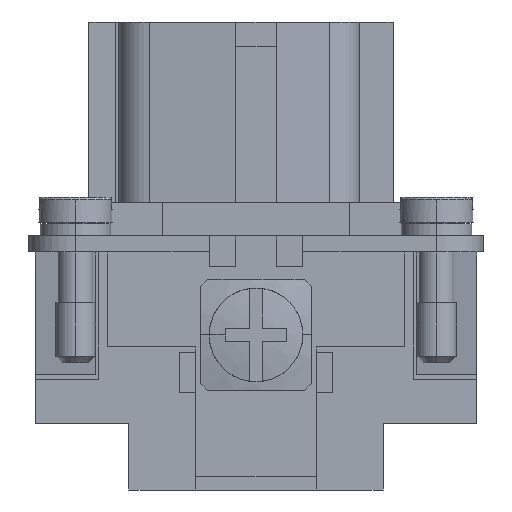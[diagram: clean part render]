
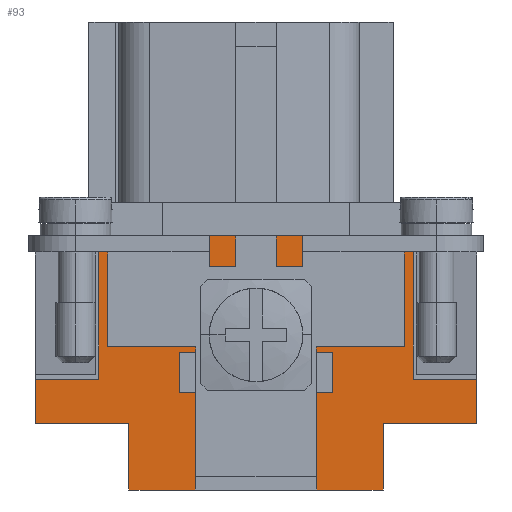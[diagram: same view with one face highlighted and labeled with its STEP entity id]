
A CAD part, left-side view. The second image highlights one B-rep face of the part: STEP entity #93.
In plain terms, the highlighted planar face has unit normal (-1, 0, 0).
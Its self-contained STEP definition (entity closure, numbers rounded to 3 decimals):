
#93 = ADVANCED_FACE ( 'NONE', ( #14484 ), #15782, .T. ) ;
#704 = VERTEX_POINT ( 'NONE', #23201 ) ;
#2454 = LINE ( 'NONE', #6421, #2481 ) ;
#2457 = LINE ( 'NONE', #6455, #2458 ) ;
#2458 = VECTOR ( 'NONE', #6454, 1000. ) ;
#2460 = LINE ( 'NONE', #6418, #2489 ) ;
#2463 = LINE ( 'NONE', #6448, #2464 ) ;
#2464 = VECTOR ( 'NONE', #6447, 1000. ) ;
#2465 = LINE ( 'NONE', #6446, #2466 ) ;
#2466 = VECTOR ( 'NONE', #6445, 1000. ) ;
#2467 = LINE ( 'NONE', #6441, #2468 ) ;
#2468 = VECTOR ( 'NONE', #6440, 1000. ) ;
#2469 = LINE ( 'NONE', #6437, #2470 ) ;
#2470 = VECTOR ( 'NONE', #6436, 1000. ) ;
#2473 = LINE ( 'NONE', #6430, #2474 ) ;
#2474 = VECTOR ( 'NONE', #6429, 1000. ) ;
#2481 = VECTOR ( 'NONE', #6416, 1000. ) ;
#2485 = LINE ( 'NONE', #6411, #2486 ) ;
#2486 = VECTOR ( 'NONE', #6410, 1000. ) ;
#2489 = VECTOR ( 'NONE', #6403, 1000. ) ;
#2490 = LINE ( 'NONE', #6378, #2505 ) ;
#2491 = LINE ( 'NONE', #6398, #2492 ) ;
#2492 = VECTOR ( 'NONE', #6395, 1000. ) ;
#2498 = LINE ( 'NONE', #6361, #2515 ) ;
#2501 = LINE ( 'NONE', #6371, #2502 ) ;
#2502 = VECTOR ( 'NONE', #6367, 1000. ) ;
#2505 = VECTOR ( 'NONE', #6360, 1000. ) ;
#2509 = LINE ( 'NONE', #6351, #2510 ) ;
#2510 = VECTOR ( 'NONE', #6350, 1000. ) ;
#2511 = LINE ( 'NONE', #6346, #2512 ) ;
#2512 = VECTOR ( 'NONE', #6345, 1000. ) ;
#2515 = VECTOR ( 'NONE', #6340, 1000. ) ;
#2521 = LINE ( 'NONE', #6390, #2522 ) ;
#2522 = VECTOR ( 'NONE', #6391, 1000. ) ;
#3594 = CARTESIAN_POINT ( 'NONE',  ( -14.85, -16.5, 5. ) ) ;
#3604 = CARTESIAN_POINT ( 'NONE',  ( -14.85, 11.75, 8.3 ) ) ;
#3866 = CARTESIAN_POINT ( 'NONE',  ( -14.85, -11.75, 8.3 ) ) ;
#3925 = CARTESIAN_POINT ( 'NONE',  ( -14.85, -4.55, 0. ) ) ;
#3997 = CARTESIAN_POINT ( 'NONE',  ( -14.85, 4.55, 0. ) ) ;
#4212 = CARTESIAN_POINT ( 'NONE',  ( -14.85, 16.5, 5. ) ) ;
#4307 = CARTESIAN_POINT ( 'NONE',  ( -14.85, -11.75, 19. ) ) ;
#4565 = CARTESIAN_POINT ( 'NONE',  ( -14.85, -16.5, 8.3 ) ) ;
#4578 = CARTESIAN_POINT ( 'NONE',  ( -14.85, 9.5, 0. ) ) ;
#4590 = CARTESIAN_POINT ( 'NONE',  ( -14.85, -4.55, 3.5 ) ) ;
#4791 = CARTESIAN_POINT ( 'NONE',  ( -14.85, 9.5, 5. ) ) ;
#5254 = CARTESIAN_POINT ( 'NONE',  ( -14.85, 16.5, 8.3 ) ) ;
#6340 = DIRECTION ( 'NONE',  ( 0., 1., 0. ) ) ;
#6345 = DIRECTION ( 'NONE',  ( 0., 0., 1. ) ) ;
#6346 = CARTESIAN_POINT ( 'NONE',  ( -14.85, -11.75, 0. ) ) ;
#6350 = DIRECTION ( 'NONE',  ( 0., 0., 1. ) ) ;
#6351 = CARTESIAN_POINT ( 'NONE',  ( -14.85, -16.5, 0. ) ) ;
#6360 = DIRECTION ( 'NONE',  ( 0., -1., 0. ) ) ;
#6361 = CARTESIAN_POINT ( 'NONE',  ( -14.85, -16.5, 19. ) ) ;
#6367 = DIRECTION ( 'NONE',  ( 0., 1., 0. ) ) ;
#6371 = CARTESIAN_POINT ( 'NONE',  ( -14.85, -16.5, 8.3 ) ) ;
#6378 = CARTESIAN_POINT ( 'NONE',  ( -14.85, -16.5, 5. ) ) ;
#6390 = CARTESIAN_POINT ( 'NONE',  ( -14.85, 11.75, 0. ) ) ;
#6391 = DIRECTION ( 'NONE',  ( 0., 0., -1. ) ) ;
#6395 = DIRECTION ( 'NONE',  ( 0., 0., 1. ) ) ;
#6398 = CARTESIAN_POINT ( 'NONE',  ( -14.85, -9.5, 0. ) ) ;
#6403 = DIRECTION ( 'NONE',  ( 0., 0., -1. ) ) ;
#6410 = DIRECTION ( 'NONE',  ( 0., -1., 0. ) ) ;
#6411 = CARTESIAN_POINT ( 'NONE',  ( -14.85, -16.5, 3.5 ) ) ;
#6416 = DIRECTION ( 'NONE',  ( 0., 0., 1. ) ) ;
#6418 = CARTESIAN_POINT ( 'NONE',  ( -14.85, -4.55, 0. ) ) ;
#6421 = CARTESIAN_POINT ( 'NONE',  ( -14.85, 4.55, 0. ) ) ;
#6429 = DIRECTION ( 'NONE',  ( 0., 0., -1. ) ) ;
#6430 = CARTESIAN_POINT ( 'NONE',  ( -14.85, 9.5, 0. ) ) ;
#6436 = DIRECTION ( 'NONE',  ( 0., -1., 0. ) ) ;
#6437 = CARTESIAN_POINT ( 'NONE',  ( -14.85, -16.5, 5. ) ) ;
#6440 = DIRECTION ( 'NONE',  ( 0., -1., 0. ) ) ;
#6441 = CARTESIAN_POINT ( 'NONE',  ( -14.85, -16.5, 0. ) ) ;
#6445 = DIRECTION ( 'NONE',  ( 0., 0., -1. ) ) ;
#6446 = CARTESIAN_POINT ( 'NONE',  ( -14.85, 16.5, 0. ) ) ;
#6447 = DIRECTION ( 'NONE',  ( 0., -1., 0. ) ) ;
#6448 = CARTESIAN_POINT ( 'NONE',  ( -14.85, -16.5, 0. ) ) ;
#6454 = DIRECTION ( 'NONE',  ( 0., 1., 0. ) ) ;
#6455 = CARTESIAN_POINT ( 'NONE',  ( -14.85, -16.5, 8.3 ) ) ;
#7011 = CARTESIAN_POINT ( 'NONE',  ( -14.85, 11.75, 19. ) ) ;
#7219 = CARTESIAN_POINT ( 'NONE',  ( -14.85, -9.5, 5. ) ) ;
#7394 = CARTESIAN_POINT ( 'NONE',  ( -14.85, 4.55, 3.5 ) ) ;
#11689 = EDGE_LOOP ( 'NONE', ( #16311, #16595, #16313, #16225, #16661, #16391, #16331, #16398, #16666, #16653, #16603, #16482, #16583, #16501, #16499, #16490 ) ) ;
#12818 = AXIS2_PLACEMENT_3D ( 'NONE', #17245, #16999, #17144 ) ;
#14484 = FACE_OUTER_BOUND ( 'NONE', #11689, .T. ) ;
#15782 = PLANE ( 'NONE',  #12818 ) ;
#15880 = VERTEX_POINT ( 'NONE', #3604 ) ;
#15891 = VERTEX_POINT ( 'NONE', #3594 ) ;
#15957 = VERTEX_POINT ( 'NONE', #4590 ) ;
#16021 = VERTEX_POINT ( 'NONE', #3866 ) ;
#16225 = ORIENTED_EDGE ( 'NONE', *, *, #22184, .T. ) ;
#16311 = ORIENTED_EDGE ( 'NONE', *, *, #22234, .T. ) ;
#16313 = ORIENTED_EDGE ( 'NONE', *, *, #22176, .T. ) ;
#16331 = ORIENTED_EDGE ( 'NONE', *, *, #22183, .T. ) ;
#16391 = ORIENTED_EDGE ( 'NONE', *, *, #22192, .T. ) ;
#16398 = ORIENTED_EDGE ( 'NONE', *, *, #22201, .T. ) ;
#16403 = VERTEX_POINT ( 'NONE', #3997 ) ;
#16410 = VERTEX_POINT ( 'NONE', #4307 ) ;
#16482 = ORIENTED_EDGE ( 'NONE', *, *, #22210, .T. ) ;
#16490 = ORIENTED_EDGE ( 'NONE', *, *, #22230, .T. ) ;
#16496 = VERTEX_POINT ( 'NONE', #4791 ) ;
#16499 = ORIENTED_EDGE ( 'NONE', *, *, #22222, .T. ) ;
#16501 = ORIENTED_EDGE ( 'NONE', *, *, #22229, .T. ) ;
#16583 = ORIENTED_EDGE ( 'NONE', *, *, #22225, .T. ) ;
#16594 = VERTEX_POINT ( 'NONE', #3925 ) ;
#16595 = ORIENTED_EDGE ( 'NONE', *, *, #22240, .T. ) ;
#16603 = ORIENTED_EDGE ( 'NONE', *, *, #22187, .T. ) ;
#16650 = VERTEX_POINT ( 'NONE', #5254 ) ;
#16653 = ORIENTED_EDGE ( 'NONE', *, *, #22209, .T. ) ;
#16661 = ORIENTED_EDGE ( 'NONE', *, *, #22188, .T. ) ;
#16666 = ORIENTED_EDGE ( 'NONE', *, *, #22204, .T. ) ;
#16736 = VERTEX_POINT ( 'NONE', #4212 ) ;
#16835 = VERTEX_POINT ( 'NONE', #4565 ) ;
#16838 = VERTEX_POINT ( 'NONE', #4578 ) ;
#16999 = DIRECTION ( 'NONE',  ( -1., 0., 0. ) ) ;
#17023 = VERTEX_POINT ( 'NONE', #7394 ) ;
#17091 = VERTEX_POINT ( 'NONE', #7219 ) ;
#17144 = DIRECTION ( 'NONE',  ( 0., 0., 1. ) ) ;
#17245 = CARTESIAN_POINT ( 'NONE',  ( -14.85, -16.5, 0. ) ) ;
#17292 = VERTEX_POINT ( 'NONE', #7011 ) ;
#22176 = EDGE_CURVE ( 'NONE', #15880, #16650, #2457, .T. ) ;
#22183 = EDGE_CURVE ( 'NONE', #16838, #16403, #2463, .T. ) ;
#22184 = EDGE_CURVE ( 'NONE', #16650, #16736, #2465, .T. ) ;
#22187 = EDGE_CURVE ( 'NONE', #16594, #704, #2467, .T. ) ;
#22188 = EDGE_CURVE ( 'NONE', #16736, #16496, #2469, .T. ) ;
#22192 = EDGE_CURVE ( 'NONE', #16496, #16838, #2473, .T. ) ;
#22201 = EDGE_CURVE ( 'NONE', #16403, #17023, #2454, .T. ) ;
#22204 = EDGE_CURVE ( 'NONE', #17023, #15957, #2485, .T. ) ;
#22209 = EDGE_CURVE ( 'NONE', #15957, #16594, #2460, .T. ) ;
#22210 = EDGE_CURVE ( 'NONE', #704, #17091, #2491, .T. ) ;
#22222 = EDGE_CURVE ( 'NONE', #16835, #16021, #2501, .T. ) ;
#22225 = EDGE_CURVE ( 'NONE', #17091, #15891, #2490, .T. ) ;
#22229 = EDGE_CURVE ( 'NONE', #15891, #16835, #2509, .T. ) ;
#22230 = EDGE_CURVE ( 'NONE', #16021, #16410, #2511, .T. ) ;
#22234 = EDGE_CURVE ( 'NONE', #16410, #17292, #2498, .T. ) ;
#22240 = EDGE_CURVE ( 'NONE', #17292, #15880, #2521, .T. ) ;
#23201 = CARTESIAN_POINT ( 'NONE',  ( -14.85, -9.5, 0. ) ) ;
